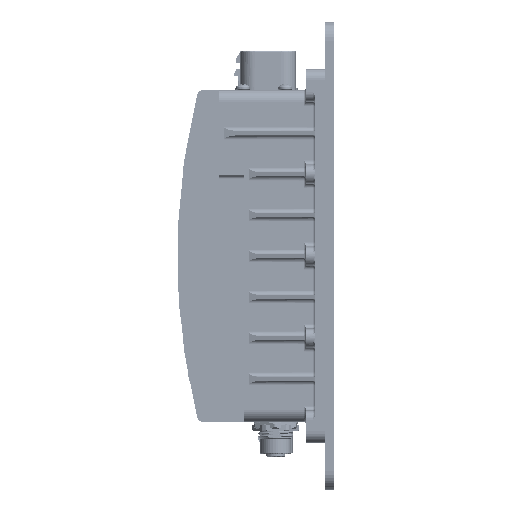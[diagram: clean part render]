
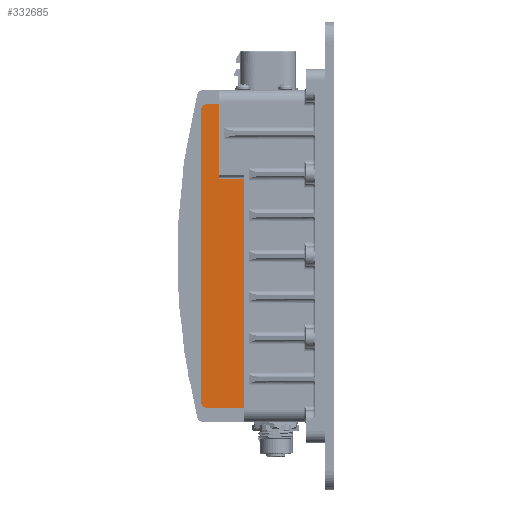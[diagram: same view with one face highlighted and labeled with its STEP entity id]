
A CAD part, left-side view. The second image highlights one B-rep face of the part: STEP entity #332685.
In plain terms, the highlighted planar face has unit normal (-1, 0, 0).
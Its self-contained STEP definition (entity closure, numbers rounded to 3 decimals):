
#8190 = EDGE_CURVE ( 'NONE', #322611, #179165, #349862, .T. ) ;
#18143 = CARTESIAN_POINT ( 'NONE',  ( -66., 53., -62. ) ) ;
#20519 = DIRECTION ( 'NONE',  ( 0., 1., 0. ) ) ;
#34465 = AXIS2_PLACEMENT_3D ( 'NONE', #451102, #589669, #404929 ) ;
#83483 = LINE ( 'NONE', #418892, #212794 ) ;
#84701 = ORIENTED_EDGE ( 'NONE', *, *, #396312, .T. ) ;
#96229 = LINE ( 'NONE', #283997, #369717 ) ;
#97177 = VECTOR ( 'NONE', #482697, 1000. ) ;
#99139 = DIRECTION ( 'NONE',  ( 0., 0., -1. ) ) ;
#107403 = CARTESIAN_POINT ( 'NONE',  ( -66., 0., 0. ) ) ;
#129664 = CARTESIAN_POINT ( 'NONE',  ( -66., 34.5, -65. ) ) ;
#131018 = EDGE_CURVE ( 'NONE', #343726, #418097, #83483, .T. ) ;
#132779 = DIRECTION ( 'NONE',  ( 0., 0., -1. ) ) ;
#138955 = AXIS2_PLACEMENT_3D ( 'NONE', #107403, #254989, #150589 ) ;
#141750 = VERTEX_POINT ( 'NONE', #496535 ) ;
#150589 = DIRECTION ( 'NONE',  ( 0., 0., 1. ) ) ;
#153487 = CARTESIAN_POINT ( 'NONE',  ( -66., 63., 65. ) ) ;
#156126 = ORIENTED_EDGE ( 'NONE', *, *, #160290, .F. ) ;
#160290 = EDGE_CURVE ( 'NONE', #525081, #548206, #433500, .T. ) ;
#168179 = EDGE_CURVE ( 'NONE', #548206, #179165, #471512, .T. ) ;
#172343 = VECTOR ( 'NONE', #20519, 1000. ) ;
#179165 = VERTEX_POINT ( 'NONE', #496176 ) ;
#201408 = CARTESIAN_POINT ( 'NONE',  ( -66., 50., 62. ) ) ;
#207336 = VECTOR ( 'NONE', #99139, 1000. ) ;
#211609 = CIRCLE ( 'NONE', #34465, 3. ) ;
#212794 = VECTOR ( 'NONE', #132779, 1000. ) ;
#234291 = CIRCLE ( 'NONE', #303257, 3. ) ;
#245949 = PLANE ( 'NONE',  #138955 ) ;
#254989 = DIRECTION ( 'NONE',  ( -1., 0., 0. ) ) ;
#274711 = CARTESIAN_POINT ( 'NONE',  ( -66., 45., 71. ) ) ;
#283997 = CARTESIAN_POINT ( 'NONE',  ( -66., 63., -65. ) ) ;
#290060 = ORIENTED_EDGE ( 'NONE', *, *, #337611, .F. ) ;
#296618 = EDGE_CURVE ( 'NONE', #141750, #370958, #96229, .T. ) ;
#303257 = AXIS2_PLACEMENT_3D ( 'NONE', #201408, #576869, #345984 ) ;
#319839 = ORIENTED_EDGE ( 'NONE', *, *, #404735, .T. ) ;
#322611 = VERTEX_POINT ( 'NONE', #397947 ) ;
#324090 = ORIENTED_EDGE ( 'NONE', *, *, #131018, .T. ) ;
#327128 = DIRECTION ( 'NONE',  ( 0., -1., 0. ) ) ;
#332685 = ADVANCED_FACE ( 'NONE', ( #387497 ), #245949, .T. ) ;
#337611 = EDGE_CURVE ( 'NONE', #322611, #370958, #492991, .T. ) ;
#343726 = VERTEX_POINT ( 'NONE', #399679 ) ;
#345984 = DIRECTION ( 'NONE',  ( 0., 0., 1. ) ) ;
#348450 = CARTESIAN_POINT ( 'NONE',  ( -66., 34.5, 34.5 ) ) ;
#349862 = LINE ( 'NONE', #442191, #172343 ) ;
#363426 = CARTESIAN_POINT ( 'NONE',  ( -66., 50., 65. ) ) ;
#369717 = VECTOR ( 'NONE', #327128, 1000. ) ;
#370480 = ORIENTED_EDGE ( 'NONE', *, *, #168179, .F. ) ;
#370958 = VERTEX_POINT ( 'NONE', #129664 ) ;
#387497 = FACE_OUTER_BOUND ( 'NONE', #522115, .T. ) ;
#396312 = EDGE_CURVE ( 'NONE', #525081, #343726, #234291, .T. ) ;
#397947 = CARTESIAN_POINT ( 'NONE',  ( -66., 34.5, 33. ) ) ;
#399679 = CARTESIAN_POINT ( 'NONE',  ( -66., 53., 62. ) ) ;
#401629 = CARTESIAN_POINT ( 'NONE',  ( -66., 45., 65. ) ) ;
#404735 = EDGE_CURVE ( 'NONE', #418097, #141750, #211609, .T. ) ;
#404929 = DIRECTION ( 'NONE',  ( 0., 0., 1. ) ) ;
#418097 = VERTEX_POINT ( 'NONE', #18143 ) ;
#418892 = CARTESIAN_POINT ( 'NONE',  ( -66., 53., 65. ) ) ;
#433500 = LINE ( 'NONE', #153487, #97177 ) ;
#442191 = CARTESIAN_POINT ( 'NONE',  ( -66., 0., 33. ) ) ;
#451102 = CARTESIAN_POINT ( 'NONE',  ( -66., 50., -62. ) ) ;
#471512 = LINE ( 'NONE', #274711, #207336 ) ;
#482697 = DIRECTION ( 'NONE',  ( 0., -1., 0. ) ) ;
#492991 = LINE ( 'NONE', #348450, #603218 ) ;
#496176 = CARTESIAN_POINT ( 'NONE',  ( -66., 45., 33. ) ) ;
#496535 = CARTESIAN_POINT ( 'NONE',  ( -66., 50., -65. ) ) ;
#505274 = ORIENTED_EDGE ( 'NONE', *, *, #8190, .T. ) ;
#522115 = EDGE_LOOP ( 'NONE', ( #290060, #505274, #370480, #156126, #84701, #324090, #319839, #582869 ) ) ;
#525081 = VERTEX_POINT ( 'NONE', #363426 ) ;
#530140 = DIRECTION ( 'NONE',  ( 0., 0., -1. ) ) ;
#548206 = VERTEX_POINT ( 'NONE', #401629 ) ;
#576869 = DIRECTION ( 'NONE',  ( -1., 0., 0. ) ) ;
#582869 = ORIENTED_EDGE ( 'NONE', *, *, #296618, .T. ) ;
#589669 = DIRECTION ( 'NONE',  ( -1., 0., 0. ) ) ;
#603218 = VECTOR ( 'NONE', #530140, 1000. ) ;
